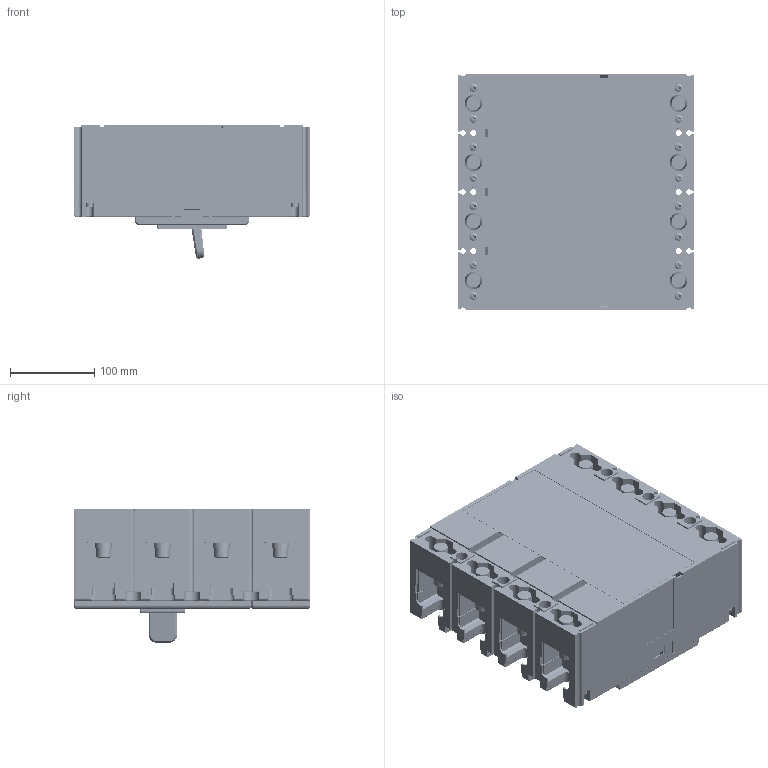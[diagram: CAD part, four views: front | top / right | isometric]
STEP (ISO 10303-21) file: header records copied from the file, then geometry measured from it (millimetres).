
FILE_DESCRIPTION((''),'2;1');
FILE_NAME('_CDM6I-800_4P_ASM','2025-08-22T',('xianrao.mao'),(''),'PRO/ENGINEER BY PARAMETRIC TECHNOLOGY CORPORATION, 2017170','PRO/ENGINEER BY PARAMETRIC TECHNOLOGY CORPORATION, 2017170','');
FILE_SCHEMA(('CONFIG_CONTROL_DESIGN'));
Products named in the file (49): JIZUO_5024040200_1_1; GB_T809-M5X16_1_1; 5024040200_ASM_1_ASM_1_ASM; 89400070R0_1_1; 8551039600_1_1; 5551090800_ASM_1_ASM_1_ASM; 5551088900_ASM_1_ASM_1_ASM; 8585075200_1_1; 5551101900_ASM_1_ASM_1_ASM; 5551102000_ASM_1_ASM_1_ASM; 5551149700_ASM_1_ASM_1_ASM; 8585075700_1_1; MANIFOLD_SOLID_BREP_110220_1; MANIFOLD_SOLID_BREP_110370_1; 8505030500_1_ASM_1_ASM; 5510025100_AF0_ASM_1_ASM_1_ASM; 7030100029_GB_T9074_4-M5X12_R_1; 7030100013_GB_T9074_4_M4X18_R_1; 7030100027_GB_T9074_4-M5X50_R_1; 7030100026_GB_T9074_4-M5X16_R_1; 5295020900_ASM_1_ASM_1_ASM; 8742116200_1_1; 8750038300_1_1; 8253076300_1_1; 5253028700_ASM_1_ASM_1_ASM; GZ_5315075500_1_1; GB_T809-M3X8_1_1; 5315075500_ASM_1_ASM_1_ASM; 8253076400_1_1; 8282201200_AF0_1_1; 5315077000_ASM_1_ASM_1_ASM; GB_T823-M5X35_1_1; 7090300501K_GB_T93_5_1_1; GB_T97_4_5_1_1; 5850007400_ASM_1_ASM_1_ASM; 8315095500_1_1; 8315095600_1_1; 7010100305R01_GB_T823_M3X10_1_1; 7090300201_GB_T93_3_1_1; GB_T97_4_3_1_1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
Assembly tree (132 placements, depth 8):
  _CDM6I-800_4P_ASM
    2253065900_ASM_ASM_1_ASM
      2253065900_ASM_1_ASM_1_ASM
        5295020900_ASM_1_ASM_1_ASM
          5024040200_ASM_1_ASM_1_ASM
            JIZUO_5024040200_1_1
            GB_T809-M5X16_1_1  x11
          89400070R0_1_1  x8
          5551088900_ASM_1_ASM_1_ASM  x3
            5551090800_ASM_1_ASM_1_ASM
              8551039600_1_1
          5551149700_ASM_1_ASM_1_ASM
            5551102000_ASM_1_ASM_1_ASM  x3
              5551101900_ASM_1_ASM_1_ASM
                8585075200_1_1
          5510025100_AF0_ASM_1_ASM_1_ASM
            8585075700_1_1  x2
            8505030500_1_ASM_1_ASM  x2
              MANIFOLD_SOLID_BREP_110220_1
              MANIFOLD_SOLID_BREP_110370_1
          7030100029_GB_T9074_4-M5X12_R_1  x11
          7030100013_GB_T9074_4_M4X18_R_1  x6
          7030100027_GB_T9074_4-M5X50_R_1  x4
          7030100026_GB_T9074_4-M5X16_R_1  x8
        8742116200_1_1  x4
        8750038300_1_1
        5253028700_ASM_1_ASM_1_ASM
          8253076300_1_1
        5315077000_ASM_1_ASM_1_ASM
          5315075500_ASM_1_ASM_1_ASM
            GZ_5315075500_1_1
            GB_T809-M3X8_1_1  x9
          8253076400_1_1
          8282201200_AF0_1_1
        5850007400_ASM_1_ASM_1_ASM  x11
          GB_T823-M5X35_1_1
          7090300501K_GB_T93_5_1_1
          GB_T97_4_5_1_1
        8315095500_1_1
        8315095600_1_1
        5850007700_ASM_1_ASM_1_ASM  x9
          7010100305R01_GB_T823_M3X10_1_1
          7090300201_GB_T93_3_1_1
          GB_T97_4_3_1_1
        8742116600_1_1
        5850010000_ASM_1_ASM_1_ASM  x8
          GB_T70_1-M12X35_1_1
          GB_T9074_26-12_1_1
          GB_T97_4_12_1_1
Bounding box: 280 x 280 x 158.34 mm (x, y, z)
Volume: 3284518.3 mm3; surface area: 1315017.3 mm2
Topology: 166 solids, 268 shells, 10482 faces, 28107 edges, 18267 vertices
Faces by surface type: plane 6652, cylinder 2589, cone 344, extrusion 304, torus 245, bspline 186, sphere 162
Entity records: 273267 total; most frequent: CARTESIAN_POINT 70754, ORIENTED_EDGE 43180, DIRECTION 40157, EDGE_CURVE 21626, VECTOR 16335, LINE 16031, VERTEX_POINT 14187, AXIS2_PLACEMENT_3D 11911
